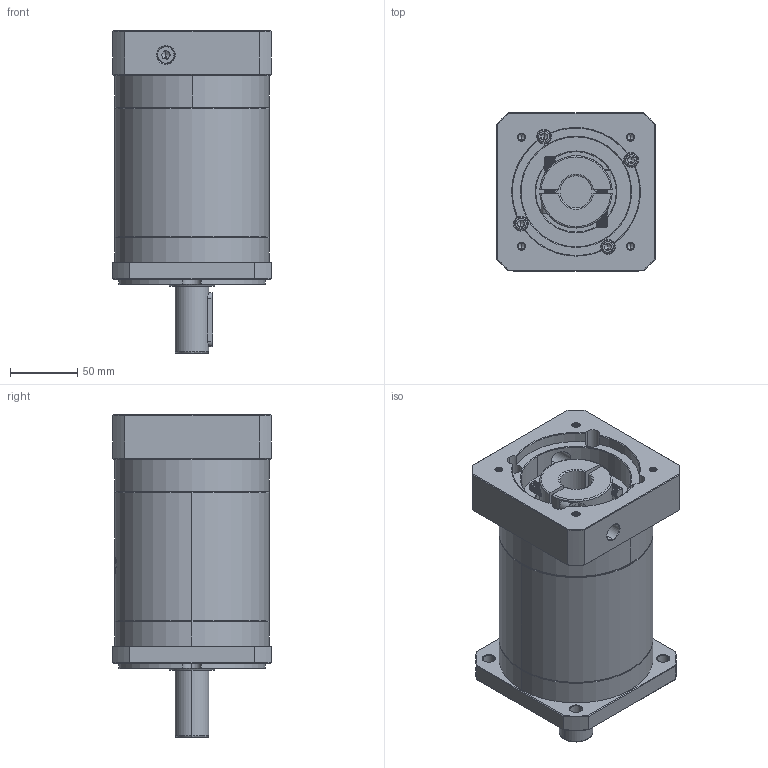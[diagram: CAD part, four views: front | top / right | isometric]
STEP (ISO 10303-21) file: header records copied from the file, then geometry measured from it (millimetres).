
FILE_DESCRIPTION (( 'STEP AP214' ), '1' );
FILE_NAME ('ZF120A-D25-L3-P2-24-95-115-M6.step', '2023-08-27T04:42:46', ( '' ), ( '' ), 'SwSTEP 2.0', 'SolidWorks 2016', '' );
FILE_SCHEMA (( 'AUTOMOTIVE_DESIGN' ));
Length unit declared in the file: millimetre
Products named in the file (1): ZF120A-D25-L3-P2-24-95-115-M6
Bounding box: 118 x 118 x 240.5 mm (x, y, z)
Volume: 1953469.5 mm3; surface area: 178677.8 mm2
Topology: 6 solids, 6 shells, 2237 faces, 5963 edges, 3827 vertices
Faces by surface type: plane 1034, bspline 439, cylinder 421, cone 343
Entity records: 122929 total; most frequent: CARTESIAN_POINT 48036, ORIENTED_EDGE 11866, DIRECTION 8622, EDGE_CURVE 5933, VERTEX_POINT 3827, VECTOR 3102, LINE 3102, AXIS2_PLACEMENT_3D 2760
